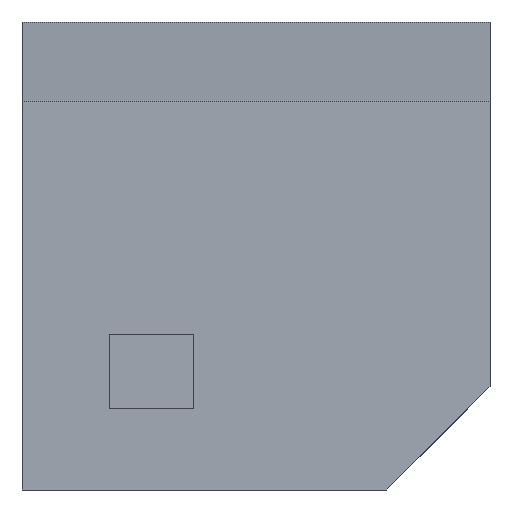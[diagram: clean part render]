
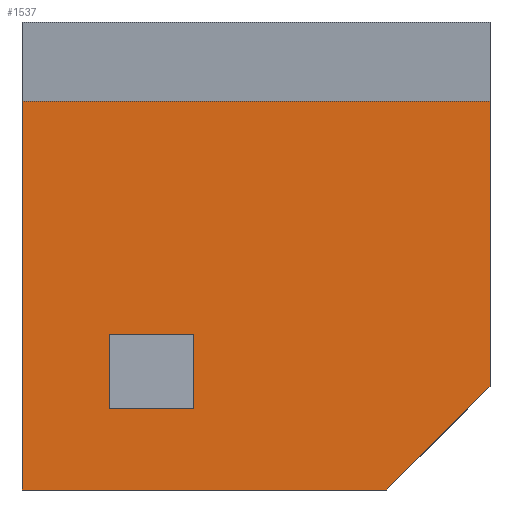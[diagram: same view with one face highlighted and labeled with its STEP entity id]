
A CAD part, front view. The second image highlights one B-rep face of the part: STEP entity #1537.
In plain terms, the highlighted planar face has unit normal (0, -1, 0).
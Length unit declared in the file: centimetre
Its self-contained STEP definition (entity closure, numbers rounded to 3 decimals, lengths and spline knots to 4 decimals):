
#3 = EDGE_CURVE ( 'NONE', #882, #1404, #291, .T. ) ;
#4 = VERTEX_POINT ( 'NONE', #547 ) ;
#22 = CARTESIAN_POINT ( 'NONE',  ( 186.4608, 0., 173.4375 ) ) ;
#30 = LINE ( 'NONE', #22, #147 ) ;
#35 = LINE ( 'NONE', #257, #712 ) ;
#54 = EDGE_CURVE ( 'NONE', #668, #882, #30, .T. ) ;
#97 = DIRECTION ( 'NONE',  ( 0., 0., 1. ) ) ;
#112 = ORIENTED_EDGE ( 'NONE', *, *, #804, .F. ) ;
#139 = VERTEX_POINT ( 'NONE', #290 ) ;
#147 = VECTOR ( 'NONE', #1032, 100. ) ;
#180 = DIRECTION ( 'NONE',  ( 0.707, 0., 0.707 ) ) ;
#183 = EDGE_CURVE ( 'NONE', #190, #864, #917, .T. ) ;
#190 = VERTEX_POINT ( 'NONE', #1282 ) ;
#193 = EDGE_CURVE ( 'NONE', #4, #864, #552, .T. ) ;
#217 = FACE_BOUND ( 'NONE', #975, .T. ) ;
#226 = LINE ( 'NONE', #736, #1225 ) ;
#254 = LINE ( 'NONE', #856, #851 ) ;
#257 = CARTESIAN_POINT ( 'NONE',  ( 0., 0., 1000. ) ) ;
#290 = CARTESIAN_POINT ( 'NONE',  ( 366.7752, 0., 332.5527 ) ) ;
#291 = LINE ( 'NONE', #1038, #642 ) ;
#305 = DIRECTION ( 'NONE',  ( 0., 0., -1. ) ) ;
#318 = CARTESIAN_POINT ( 'NONE',  ( 1000., 0., 221.0375 ) ) ;
#346 = FACE_OUTER_BOUND ( 'NONE', #624, .T. ) ;
#374 = CARTESIAN_POINT ( 'NONE',  ( 0., 0., 830.1774 ) ) ;
#389 = ORIENTED_EDGE ( 'NONE', *, *, #54, .F. ) ;
#486 = DIRECTION ( 'NONE',  ( 0., 0., 1. ) ) ;
#498 = LINE ( 'NONE', #374, #1083 ) ;
#501 = ORIENTED_EDGE ( 'NONE', *, *, #566, .T. ) ;
#529 = CARTESIAN_POINT ( 'NONE',  ( 366.7752, 0., 173.4375 ) ) ;
#540 = EDGE_CURVE ( 'NONE', #139, #668, #254, .T. ) ;
#547 = CARTESIAN_POINT ( 'NONE',  ( 778.9625, 0., 0. ) ) ;
#552 = LINE ( 'NONE', #931, #1273 ) ;
#566 = EDGE_CURVE ( 'NONE', #1055, #4, #986, .T. ) ;
#578 = CARTESIAN_POINT ( 'NONE',  ( 0., 0., 830.1774 ) ) ;
#588 = ORIENTED_EDGE ( 'NONE', *, *, #1329, .T. ) ;
#591 = VECTOR ( 'NONE', #731, 100. ) ;
#624 = EDGE_LOOP ( 'NONE', ( #112, #588, #501, #1477, #899 ) ) ;
#642 = VECTOR ( 'NONE', #1301, 100. ) ;
#668 = VERTEX_POINT ( 'NONE', #1397 ) ;
#711 = CARTESIAN_POINT ( 'NONE',  ( 0., 0., 1000. ) ) ;
#712 = VECTOR ( 'NONE', #887, 100. ) ;
#731 = DIRECTION ( 'NONE',  ( 1., 0., 0. ) ) ;
#736 = CARTESIAN_POINT ( 'NONE',  ( 366.7752, 0., 173.4375 ) ) ;
#804 = EDGE_CURVE ( 'NONE', #1503, #190, #498, .T. ) ;
#830 = CARTESIAN_POINT ( 'NONE',  ( 0., 0., 0. ) ) ;
#832 = ORIENTED_EDGE ( 'NONE', *, *, #540, .F. ) ;
#851 = VECTOR ( 'NONE', #861, 100. ) ;
#856 = CARTESIAN_POINT ( 'NONE',  ( 186.4608, 0., 332.5527 ) ) ;
#861 = DIRECTION ( 'NONE',  ( -1., 0., 0. ) ) ;
#864 = VERTEX_POINT ( 'NONE', #318 ) ;
#871 = DIRECTION ( 'NONE',  ( 1., 0., 0. ) ) ;
#882 = VERTEX_POINT ( 'NONE', #1545 ) ;
#887 = DIRECTION ( 'NONE',  ( 0., 0., -1. ) ) ;
#899 = ORIENTED_EDGE ( 'NONE', *, *, #183, .F. ) ;
#917 = LINE ( 'NONE', #922, #1303 ) ;
#922 = CARTESIAN_POINT ( 'NONE',  ( 1000., 0., 1000. ) ) ;
#931 = CARTESIAN_POINT ( 'NONE',  ( 1000., 0., 221.0375 ) ) ;
#975 = EDGE_LOOP ( 'NONE', ( #1440, #389, #832, #1097 ) ) ;
#985 = DIRECTION ( 'NONE',  ( 0., 1., 0. ) ) ;
#986 = LINE ( 'NONE', #1245, #591 ) ;
#1032 = DIRECTION ( 'NONE',  ( 0., 0., -1. ) ) ;
#1038 = CARTESIAN_POINT ( 'NONE',  ( 186.4608, 0., 173.4375 ) ) ;
#1055 = VERTEX_POINT ( 'NONE', #830 ) ;
#1083 = VECTOR ( 'NONE', #871, 100. ) ;
#1097 = ORIENTED_EDGE ( 'NONE', *, *, #1603, .F. ) ;
#1101 = PLANE ( 'NONE',  #1173 ) ;
#1173 = AXIS2_PLACEMENT_3D ( 'NONE', #711, #985, #97 ) ;
#1225 = VECTOR ( 'NONE', #486, 100. ) ;
#1245 = CARTESIAN_POINT ( 'NONE',  ( 0., 0., 0. ) ) ;
#1273 = VECTOR ( 'NONE', #180, 100. ) ;
#1282 = CARTESIAN_POINT ( 'NONE',  ( 1000., 0., 830.1774 ) ) ;
#1301 = DIRECTION ( 'NONE',  ( 1., 0., 0. ) ) ;
#1303 = VECTOR ( 'NONE', #305, 100. ) ;
#1329 = EDGE_CURVE ( 'NONE', #1503, #1055, #35, .T. ) ;
#1397 = CARTESIAN_POINT ( 'NONE',  ( 186.4608, 0., 332.5527 ) ) ;
#1404 = VERTEX_POINT ( 'NONE', #529 ) ;
#1440 = ORIENTED_EDGE ( 'NONE', *, *, #3, .F. ) ;
#1477 = ORIENTED_EDGE ( 'NONE', *, *, #193, .T. ) ;
#1503 = VERTEX_POINT ( 'NONE', #578 ) ;
#1537 = ADVANCED_FACE ( 'NONE', ( #217, #346 ), #1101, .F. ) ;
#1545 = CARTESIAN_POINT ( 'NONE',  ( 186.4608, 0., 173.4375 ) ) ;
#1603 = EDGE_CURVE ( 'NONE', #1404, #139, #226, .T. ) ;
